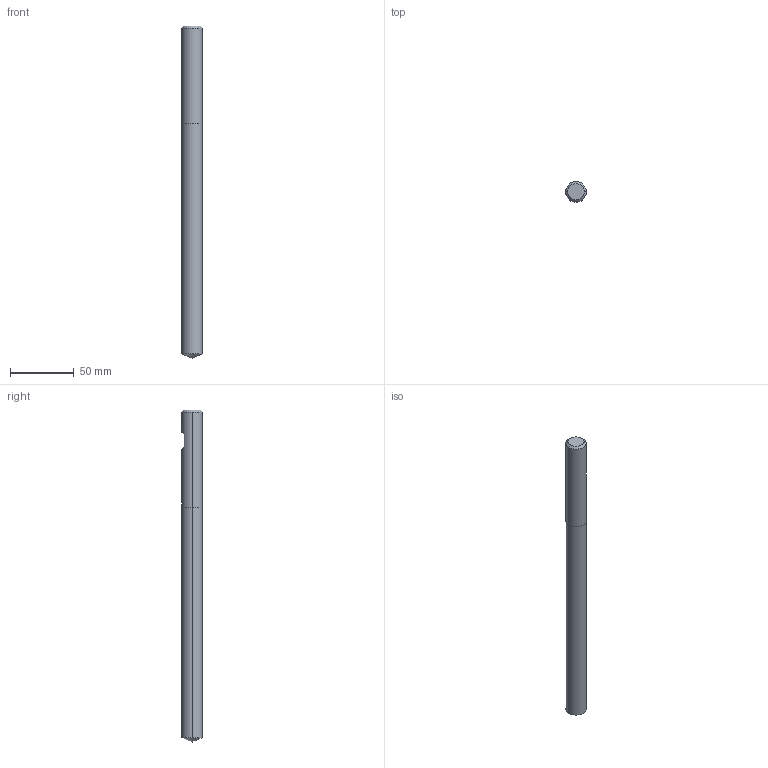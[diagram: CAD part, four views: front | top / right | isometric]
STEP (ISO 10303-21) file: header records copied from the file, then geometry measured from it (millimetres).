
FILE_DESCRIPTION (( 'STEP AP214' ), '1' );
FILE_NAME ('710.160.10_3D-model.step', '2022-02-22T18:02:49', ( '' ), ( '' ), 'SwSTEP 2.0', 'SolidWorks 2020', '' );
FILE_SCHEMA (( 'AUTOMOTIVE_DESIGN' ));
Length unit declared in the file: millimetre
Products named in the file (3): NOCUT-3D^Baugr177; 710.160.10_3D-model; CUT-3D^Baugr177
Assembly tree (2 placements, depth 2):
  710.160.10_3D-model
    CUT-3D^Baugr177
    NOCUT-3D^Baugr177
Bounding box: 16 x 16 x 260 mm (x, y, z)
Volume: 51629.5 mm3; surface area: 13673.6 mm2
Topology: 2 solids, 2 shells, 14 faces, 26 edges, 15 vertices
Faces by surface type: plane 6, cone 4, cylinder 4
Entity records: 456 total; most frequent: DIRECTION 76, CARTESIAN_POINT 67, ORIENTED_EDGE 48, AXIS2_PLACEMENT_3D 32, EDGE_CURVE 24, VERTEX_POINT 15, EDGE_LOOP 15, FACE_OUTER_BOUND 14
